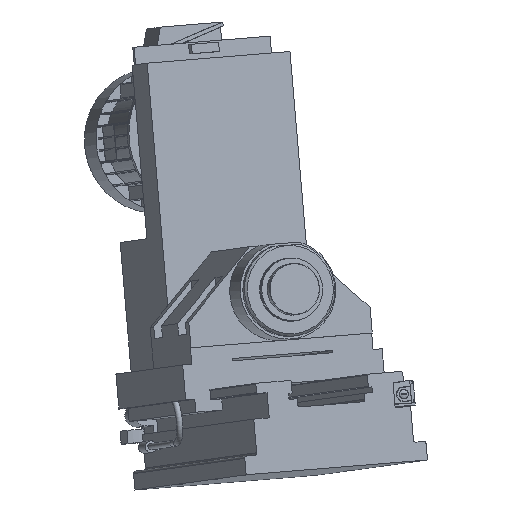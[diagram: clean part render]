
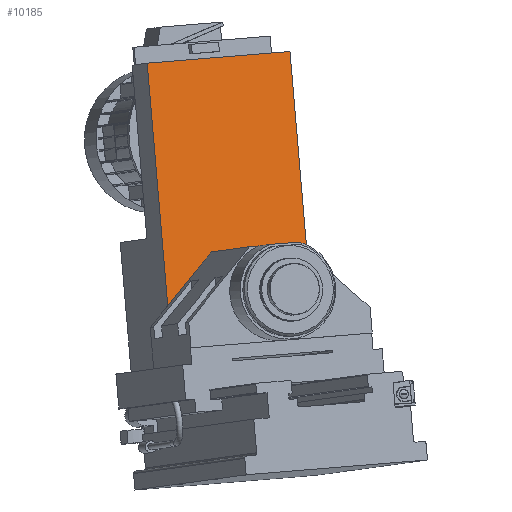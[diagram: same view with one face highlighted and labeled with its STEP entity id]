
A CAD part, left-side view. The second image highlights one B-rep face of the part: STEP entity #10185.
In plain terms, the highlighted planar face has unit normal (-0.971, -0.237, 0.033).
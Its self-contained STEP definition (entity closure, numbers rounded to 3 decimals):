
#10033=CARTESIAN_POINT('',(283.002,69.601,1308.083));
#10034=VERTEX_POINT('',#10033);
#10035=CARTESIAN_POINT('',(276.33,25.751,790.149));
#10036=VERTEX_POINT('',#10035);
#10037=CARTESIAN_POINT('',(283.002,69.601,1308.083));
#10038=DIRECTION('',(-0.013,-0.084,-0.996));
#10039=VECTOR('',#10038,519.831);
#10040=LINE('',#10037,#10039);
#10041=EDGE_CURVE('',#10034,#10036,#10040,.T.);
#10105=CARTESIAN_POINT('',(200.912,330.58,765.312));
#10106=VERTEX_POINT('',#10105);
#10113=CARTESIAN_POINT('',(207.585,374.429,1283.247));
#10114=VERTEX_POINT('',#10113);
#10115=CARTESIAN_POINT('',(200.912,330.58,765.312));
#10116=DIRECTION('',(0.013,0.084,0.996));
#10117=VECTOR('',#10116,519.831);
#10118=LINE('',#10115,#10117);
#10119=EDGE_CURVE('',#10106,#10114,#10118,.T.);
#10139=CARTESIAN_POINT('',(207.585,374.429,1283.247));
#10140=DIRECTION('',(0.239,-0.968,0.079));
#10141=VECTOR('',#10140,315.);
#10142=LINE('',#10139,#10141);
#10143=EDGE_CURVE('',#10114,#10034,#10142,.T.);
#10153=CARTESIAN_POINT('',(241.122,194.6,971.851));
#10154=DIRECTION('',(-0.971,-0.238,0.033));
#10155=DIRECTION('',(0.239,-0.968,0.079));
#10156=AXIS2_PLACEMENT_3D('',#10153,#10154,#10155);
#10157=PLANE('',#10156);
#10158=CARTESIAN_POINT('',(252.52,136.541,888.297));
#10159=VERTEX_POINT('',#10158);
#10160=CARTESIAN_POINT('',(276.33,25.751,790.149));
#10161=DIRECTION('',(-0.159,0.739,0.655));
#10162=VECTOR('',#10161,149.914);
#10163=LINE('',#10160,#10162);
#10164=EDGE_CURVE('',#10036,#10159,#10163,.T.);
#10165=ORIENTED_EDGE('',*,*,#10164,.F.);
#10166=ORIENTED_EDGE('',*,*,#10041,.F.);
#10167=ORIENTED_EDGE('',*,*,#10143,.F.);
#10168=ORIENTED_EDGE('',*,*,#10119,.F.);
#10169=CARTESIAN_POINT('',(227.464,237.813,880.046));
#10170=VERTEX_POINT('',#10169);
#10171=CARTESIAN_POINT('',(227.464,237.813,880.046));
#10172=DIRECTION('',(-0.177,0.619,-0.765));
#10173=VECTOR('',#10172,149.914);
#10174=LINE('',#10171,#10173);
#10175=EDGE_CURVE('',#10170,#10106,#10174,.T.);
#10176=ORIENTED_EDGE('',*,*,#10175,.F.);
#10177=CARTESIAN_POINT('',(252.52,136.541,888.297));
#10178=DIRECTION('',(-0.239,0.968,-0.079));
#10179=VECTOR('',#10178,104.652);
#10180=LINE('',#10177,#10179);
#10181=EDGE_CURVE('',#10159,#10170,#10180,.T.);
#10182=ORIENTED_EDGE('',*,*,#10181,.F.);
#10183=EDGE_LOOP('',(#10165,#10166,#10167,#10168,#10176,#10182));
#10184=FACE_OUTER_BOUND('',#10183,.T.);
#10185=ADVANCED_FACE('',(#10184),#10157,.T.);
